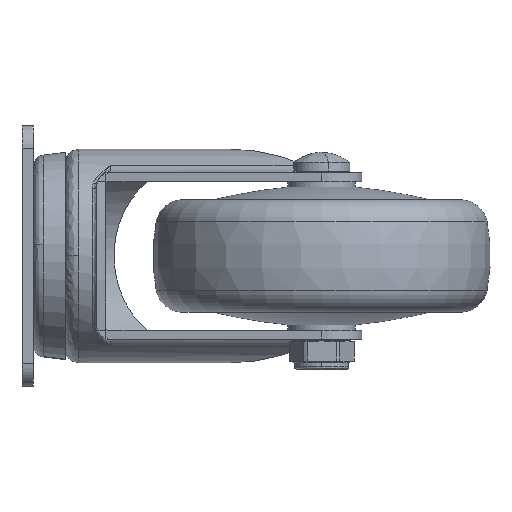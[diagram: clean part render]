
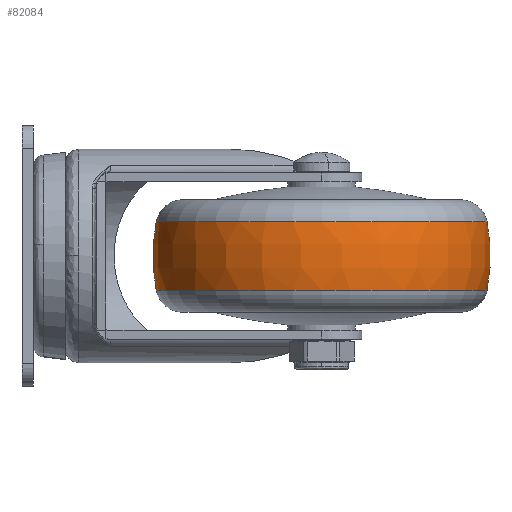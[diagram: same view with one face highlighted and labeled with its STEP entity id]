
A CAD part, left-side view. The second image highlights one B-rep face of the part: STEP entity #82084.
In plain terms, the highlighted toroidal (fillet/blend) face has major radius 2.5 mm and minor radius 40 mm.
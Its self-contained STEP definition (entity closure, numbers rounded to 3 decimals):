
#543 = ORIENTED_EDGE ( 'NONE', *, *, #41530, .F. ) ;
#1430 = CARTESIAN_POINT ( 'NONE',  ( 0., 0., -7.647 ) ) ;
#10370 = DIRECTION ( 'NONE',  ( 0., 0., 1. ) ) ;
#11686 = EDGE_CURVE ( 'NONE', #40714, #19857, #82359, .T. ) ;
#11846 = AXIS2_PLACEMENT_3D ( 'NONE', #40707, #40423, #41291 ) ;
#14031 = DIRECTION ( 'NONE',  ( 0., 0., -1. ) ) ;
#16898 = CIRCLE ( 'NONE', #34212, 40. ) ;
#19857 = VERTEX_POINT ( 'NONE', #52039 ) ;
#21083 = DIRECTION ( 'NONE',  ( 0., 1., 0. ) ) ;
#22475 = ORIENTED_EDGE ( 'NONE', *, *, #78496, .T. ) ;
#24840 = FACE_OUTER_BOUND ( 'NONE', #79954, .T. ) ;
#28160 = VERTEX_POINT ( 'NONE', #74740 ) ;
#34212 = AXIS2_PLACEMENT_3D ( 'NONE', #67245, #54405, #21083 ) ;
#34677 = CARTESIAN_POINT ( 'NONE',  ( 0., 36.762, 7.647 ) ) ;
#34854 = AXIS2_PLACEMENT_3D ( 'NONE', #79066, #86075, #40197 ) ;
#40197 = DIRECTION ( 'NONE',  ( 0., 1., 0. ) ) ;
#40423 = DIRECTION ( 'NONE',  ( 0., 0., -1. ) ) ;
#40707 = CARTESIAN_POINT ( 'NONE',  ( 0., 0., 0. ) ) ;
#40714 = VERTEX_POINT ( 'NONE', #68521 ) ;
#41291 = DIRECTION ( 'NONE',  ( 0., 1., 0. ) ) ;
#41530 = EDGE_CURVE ( 'NONE', #28160, #40714, #16898, .T. ) ;
#44279 = DIRECTION ( 'NONE',  ( -1., 0., 0. ) ) ;
#51400 = EDGE_CURVE ( 'NONE', #28160, #79737, #73200, .T. ) ;
#52039 = CARTESIAN_POINT ( 'NONE',  ( 0., 36.762, -7.647 ) ) ;
#54405 = DIRECTION ( 'NONE',  ( 1., 0., 0. ) ) ;
#55207 = CIRCLE ( 'NONE', #57828, 40. ) ;
#57419 = CARTESIAN_POINT ( 'NONE',  ( 0., -2.5, 0. ) ) ;
#57828 = AXIS2_PLACEMENT_3D ( 'NONE', #57419, #44279, #10370 ) ;
#61369 = DIRECTION ( 'NONE',  ( 0., 1., 0. ) ) ;
#61408 = TOROIDAL_SURFACE ( 'NONE', #11846, -2.5, 40. ) ;
#67245 = CARTESIAN_POINT ( 'NONE',  ( 0., 2.5, 0. ) ) ;
#67977 = ORIENTED_EDGE ( 'NONE', *, *, #51400, .T. ) ;
#68521 = CARTESIAN_POINT ( 'NONE',  ( 0., -36.762, -7.647 ) ) ;
#70355 = ORIENTED_EDGE ( 'NONE', *, *, #11686, .F. ) ;
#73200 = CIRCLE ( 'NONE', #34854, 36.762 ) ;
#74740 = CARTESIAN_POINT ( 'NONE',  ( 0., -36.762, 7.647 ) ) ;
#78496 = EDGE_CURVE ( 'NONE', #79737, #19857, #55207, .T. ) ;
#79066 = CARTESIAN_POINT ( 'NONE',  ( 0., 0., 7.647 ) ) ;
#79737 = VERTEX_POINT ( 'NONE', #34677 ) ;
#79954 = EDGE_LOOP ( 'NONE', ( #543, #67977, #22475, #70355 ) ) ;
#82084 = ADVANCED_FACE ( 'NONE', ( #24840 ), #61408, .T. ) ;
#82359 = CIRCLE ( 'NONE', #84776, 36.762 ) ;
#84776 = AXIS2_PLACEMENT_3D ( 'NONE', #1430, #14031, #61369 ) ;
#86075 = DIRECTION ( 'NONE',  ( 0., 0., -1. ) ) ;
